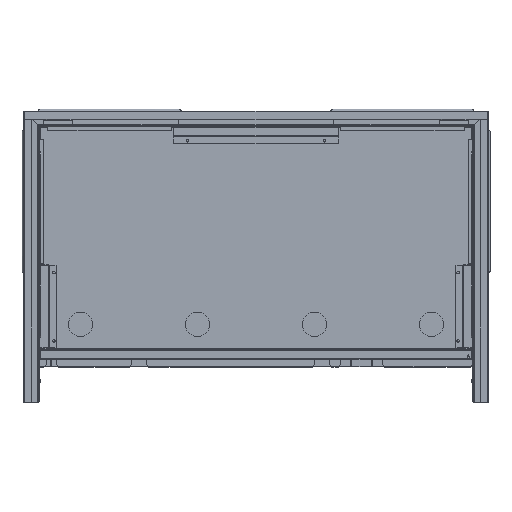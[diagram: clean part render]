
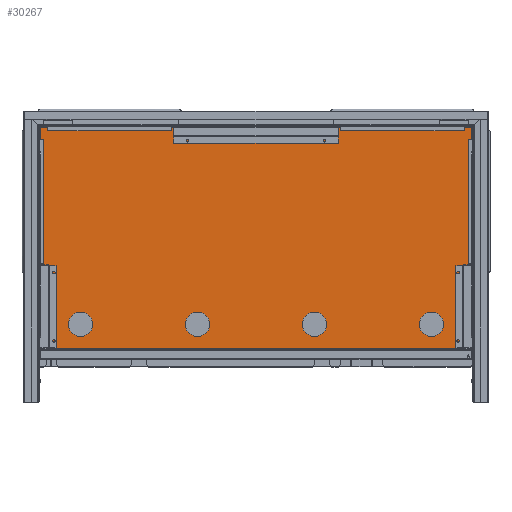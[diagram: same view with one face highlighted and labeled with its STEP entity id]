
A CAD part, front view. The second image highlights one B-rep face of the part: STEP entity #30267.
In plain terms, the highlighted planar face has unit normal (0, 1, 0).
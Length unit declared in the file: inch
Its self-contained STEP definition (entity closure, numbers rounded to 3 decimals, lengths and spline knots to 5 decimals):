
#197 = ORIENTED_EDGE ( 'NONE', *, *, #16010, .T. ) ;
#628 = CARTESIAN_POINT ( 'NONE',  ( -8.11634, 68.87815, 4.125 ) ) ;
#969 = EDGE_CURVE ( 'NONE', #28273, #17442, #24202, .T. ) ;
#1167 = EDGE_CURVE ( 'NONE', #7470, #19555, #25608, .T. ) ;
#1241 = CARTESIAN_POINT ( 'NONE',  ( -8.11634, 68.87815, 41.375 ) ) ;
#1822 = DIRECTION ( 'NONE',  ( 0., 0., -1. ) ) ;
#1848 = DIRECTION ( 'NONE',  ( 0., -1., 0. ) ) ;
#1887 = CARTESIAN_POINT ( 'NONE',  ( -8.11634, 68.87815, 4.125 ) ) ;
#2796 = DIRECTION ( 'NONE',  ( 0., 0., -1. ) ) ;
#2968 = CARTESIAN_POINT ( 'NONE',  ( 12.11517, 68.87815, 44.25 ) ) ;
#3200 = DIRECTION ( 'NONE',  ( 0., 0., -1. ) ) ;
#3411 = AXIS2_PLACEMENT_3D ( 'NONE', #13496, #4193, #11322 ) ;
#3509 = EDGE_LOOP ( 'NONE', ( #29790, #23100 ) ) ;
#3874 = CARTESIAN_POINT ( 'NONE',  ( 12.19904, 68.87815, 44.25 ) ) ;
#3956 = AXIS2_PLACEMENT_3D ( 'NONE', #628, #18292, #3200 ) ;
#3987 = PLANE ( 'NONE',  #19897 ) ;
#4193 = DIRECTION ( 'NONE',  ( 0., -1., 0. ) ) ;
#4496 = CARTESIAN_POINT ( 'NONE',  ( -8.11634, 68.87815, 17.375 ) ) ;
#4568 = DIRECTION ( 'NONE',  ( 0., -1., 0. ) ) ;
#4941 = ORIENTED_EDGE ( 'NONE', *, *, #14667, .T. ) ;
#5203 = DIRECTION ( 'NONE',  ( 0., -1., 0. ) ) ;
#5324 = DIRECTION ( 'NONE',  ( 0., 0., -1. ) ) ;
#5364 = DIRECTION ( 'NONE',  ( 0., -1., 0. ) ) ;
#5398 = CARTESIAN_POINT ( 'NONE',  ( -8.11634, 68.87815, 28.125 ) ) ;
#5422 = FACE_BOUND ( 'NONE', #11054, .T. ) ;
#6717 = CIRCLE ( 'NONE', #10137, 1.25 ) ;
#7060 = AXIS2_PLACEMENT_3D ( 'NONE', #19636, #4568, #22139 ) ;
#7188 = AXIS2_PLACEMENT_3D ( 'NONE', #25984, #11154, #28436 ) ;
#7470 = VERTEX_POINT ( 'NONE', #25287 ) ;
#7474 = CIRCLE ( 'NONE', #16748, 1.25 ) ;
#7507 = CARTESIAN_POINT ( 'NONE',  ( -8.11634, 68.87815, 38.875 ) ) ;
#8494 = EDGE_CURVE ( 'NONE', #24773, #26256, #22150, .T. ) ;
#8763 = ORIENTED_EDGE ( 'NONE', *, *, #8494, .T. ) ;
#8941 = CIRCLE ( 'NONE', #7188, 1.25 ) ;
#9168 = CARTESIAN_POINT ( 'NONE',  ( -8.11634, 68.87815, 2.875 ) ) ;
#9425 = CARTESIAN_POINT ( 'NONE',  ( 12.11517, 68.87815, 0. ) ) ;
#9768 = VERTEX_POINT ( 'NONE', #12172 ) ;
#10137 = AXIS2_PLACEMENT_3D ( 'NONE', #1887, #1848, #1822 ) ;
#10228 = DIRECTION ( 'NONE',  ( 1., 0., 0. ) ) ;
#10351 = VECTOR ( 'NONE', #13430, 39.37008 ) ;
#11054 = EDGE_LOOP ( 'NONE', ( #24261, #4941 ) ) ;
#11154 = DIRECTION ( 'NONE',  ( 0., -1., 0. ) ) ;
#11322 = DIRECTION ( 'NONE',  ( 0., 0., -1. ) ) ;
#11518 = EDGE_CURVE ( 'NONE', #17442, #28273, #29901, .T. ) ;
#11644 = DIRECTION ( 'NONE',  ( 0., 1., 0. ) ) ;
#11740 = DIRECTION ( 'NONE',  ( 0., -1., 0. ) ) ;
#11940 = CIRCLE ( 'NONE', #7060, 1.25 ) ;
#12165 = FACE_BOUND ( 'NONE', #23898, .T. ) ;
#12172 = CARTESIAN_POINT ( 'NONE',  ( -8.11634, 68.87815, 14.875 ) ) ;
#12882 = CARTESIAN_POINT ( 'NONE',  ( -10.62908, 68.87815, 0. ) ) ;
#13139 = ORIENTED_EDGE ( 'NONE', *, *, #24548, .T. ) ;
#13430 = DIRECTION ( 'NONE',  ( -1., 0., 0. ) ) ;
#13496 = CARTESIAN_POINT ( 'NONE',  ( -8.11634, 68.87815, 28.125 ) ) ;
#13962 = CARTESIAN_POINT ( 'NONE',  ( 12.19904, 68.87815, 0. ) ) ;
#14242 = VECTOR ( 'NONE', #17503, 39.37008 ) ;
#14317 = VERTEX_POINT ( 'NONE', #7507 ) ;
#14667 = EDGE_CURVE ( 'NONE', #19426, #23580, #6717, .T. ) ;
#14679 = ORIENTED_EDGE ( 'NONE', *, *, #1167, .T. ) ;
#14746 = ORIENTED_EDGE ( 'NONE', *, *, #16864, .T. ) ;
#15312 = EDGE_LOOP ( 'NONE', ( #14679, #197, #8763, #16872 ) ) ;
#15332 = CARTESIAN_POINT ( 'NONE',  ( -8.11634, 68.87815, 29.375 ) ) ;
#16010 = EDGE_CURVE ( 'NONE', #19555, #24773, #20465, .T. ) ;
#16748 = AXIS2_PLACEMENT_3D ( 'NONE', #20267, #5203, #22758 ) ;
#16864 = EDGE_CURVE ( 'NONE', #18568, #14317, #8941, .T. ) ;
#16872 = ORIENTED_EDGE ( 'NONE', *, *, #31174, .T. ) ;
#17116 = AXIS2_PLACEMENT_3D ( 'NONE', #5398, #5364, #5324 ) ;
#17442 = VERTEX_POINT ( 'NONE', #25632 ) ;
#17503 = DIRECTION ( 'NONE',  ( 0., 0., 1. ) ) ;
#17611 = CARTESIAN_POINT ( 'NONE',  ( -10.62908, 68.87815, 44.25 ) ) ;
#17998 = ORIENTED_EDGE ( 'NONE', *, *, #26650, .T. ) ;
#18292 = DIRECTION ( 'NONE',  ( 0., -1., 0. ) ) ;
#18568 = VERTEX_POINT ( 'NONE', #1241 ) ;
#18715 = VECTOR ( 'NONE', #10228, 39.37008 ) ;
#18782 = FACE_BOUND ( 'NONE', #3509, .T. ) ;
#19161 = ORIENTED_EDGE ( 'NONE', *, *, #29400, .T. ) ;
#19426 = VERTEX_POINT ( 'NONE', #21400 ) ;
#19500 = LINE ( 'NONE', #29694, #18715 ) ;
#19555 = VERTEX_POINT ( 'NONE', #9425 ) ;
#19636 = CARTESIAN_POINT ( 'NONE',  ( -8.11634, 68.87815, 16.125 ) ) ;
#19897 = AXIS2_PLACEMENT_3D ( 'NONE', #3874, #11644, #28928 ) ;
#20267 = CARTESIAN_POINT ( 'NONE',  ( -8.11634, 68.87815, 16.125 ) ) ;
#20362 = FACE_BOUND ( 'NONE', #22193, .T. ) ;
#20465 = LINE ( 'NONE', #13962, #10351 ) ;
#20483 = EDGE_CURVE ( 'NONE', #23580, #19426, #27475, .T. ) ;
#21278 = AXIS2_PLACEMENT_3D ( 'NONE', #26573, #11740, #29013 ) ;
#21400 = CARTESIAN_POINT ( 'NONE',  ( -8.11634, 68.87815, 5.375 ) ) ;
#22139 = DIRECTION ( 'NONE',  ( 0., 0., -1. ) ) ;
#22150 = LINE ( 'NONE', #17611, #14242 ) ;
#22193 = EDGE_LOOP ( 'NONE', ( #13139, #19161 ) ) ;
#22758 = DIRECTION ( 'NONE',  ( 0., 0., -1. ) ) ;
#23100 = ORIENTED_EDGE ( 'NONE', *, *, #969, .T. ) ;
#23580 = VERTEX_POINT ( 'NONE', #9168 ) ;
#23898 = EDGE_LOOP ( 'NONE', ( #17998, #14746 ) ) ;
#24202 = CIRCLE ( 'NONE', #17116, 1.25 ) ;
#24261 = ORIENTED_EDGE ( 'NONE', *, *, #20483, .T. ) ;
#24548 = EDGE_CURVE ( 'NONE', #9768, #28090, #11940, .T. ) ;
#24773 = VERTEX_POINT ( 'NONE', #12882 ) ;
#25287 = CARTESIAN_POINT ( 'NONE',  ( 12.11517, 68.87815, 44.25 ) ) ;
#25608 = LINE ( 'NONE', #2968, #31221 ) ;
#25632 = CARTESIAN_POINT ( 'NONE',  ( -8.11634, 68.87815, 26.875 ) ) ;
#25984 = CARTESIAN_POINT ( 'NONE',  ( -8.11634, 68.87815, 40.125 ) ) ;
#26256 = VERTEX_POINT ( 'NONE', #32070 ) ;
#26573 = CARTESIAN_POINT ( 'NONE',  ( -8.11634, 68.87815, 40.125 ) ) ;
#26650 = EDGE_CURVE ( 'NONE', #14317, #18568, #30856, .T. ) ;
#27475 = CIRCLE ( 'NONE', #3956, 1.25 ) ;
#28090 = VERTEX_POINT ( 'NONE', #4496 ) ;
#28273 = VERTEX_POINT ( 'NONE', #15332 ) ;
#28436 = DIRECTION ( 'NONE',  ( 0., 0., -1. ) ) ;
#28928 = DIRECTION ( 'NONE',  ( 0., 0., 1. ) ) ;
#29013 = DIRECTION ( 'NONE',  ( 0., 0., -1. ) ) ;
#29400 = EDGE_CURVE ( 'NONE', #28090, #9768, #7474, .T. ) ;
#29694 = CARTESIAN_POINT ( 'NONE',  ( 12.19904, 68.87815, 44.25 ) ) ;
#29790 = ORIENTED_EDGE ( 'NONE', *, *, #11518, .T. ) ;
#29901 = CIRCLE ( 'NONE', #3411, 1.25 ) ;
#30267 = ADVANCED_FACE ( 'NONE', ( #31739, #12165, #18782, #20362, #5422 ), #3987, .T. ) ;
#30856 = CIRCLE ( 'NONE', #21278, 1.25 ) ;
#31174 = EDGE_CURVE ( 'NONE', #26256, #7470, #19500, .T. ) ;
#31221 = VECTOR ( 'NONE', #2796, 39.37008 ) ;
#31739 = FACE_OUTER_BOUND ( 'NONE', #15312, .T. ) ;
#32070 = CARTESIAN_POINT ( 'NONE',  ( -10.62908, 68.87815, 44.25 ) ) ;
